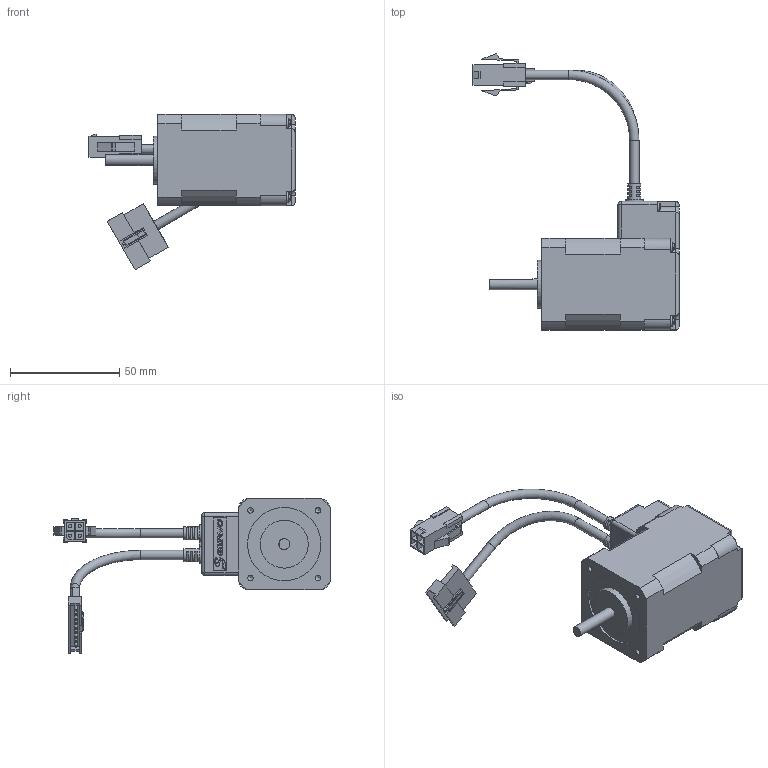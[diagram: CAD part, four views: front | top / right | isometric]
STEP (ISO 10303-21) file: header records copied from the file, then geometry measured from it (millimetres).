
FILE_DESCRIPTION(/* description */ (''),/* implementation_level */ '2;1');
FILE_NAME(/* name */ '\\EMN0D5F01\rp_inventor\RP Mechanical Design\Wiley\Updated Models\eCLM-S173F.stp',/* time_stamp */ '2016-10-27T15:40:09-07:00',/* author */ ('JDB'),/* organization */ ('Parker Hannifin Corp'),/* preprocessor_version */ 'ST-DEVELOPER v15.2',/* originating_system */ 'Autodesk Inventor 2014',/* authorisation */ '');
FILE_SCHEMA (('CONFIG_CONTROL_DESIGN'));
Products named in the file (1): eCLM-S173F_sw
Bounding box: 94.5 x 126.61 x 71.22 mm (x, y, z)
Volume: 102402 mm3; surface area: 32297.2 mm2
Topology: 3 solids, 3 shells, 3796 faces, 11089 edges, 7361 vertices
Faces by surface type: plane 3573, cylinder 123, bspline 44, cone 40, sphere 8, torus 8
Full cylindrical faces by diameter (mm): 1 x9, 1.5 x4, 1.6 x4, 2.1 x4, 2.3 x2, 2.5 x4, 4 x5, 4.3 x4, 5 x2, 6 x4, 8 x2, 9.2 x1, 17.5 x1, 22 x1, 33.6 x1
Entity records: 123165 total; most frequent: CARTESIAN_POINT 23049, ORIENTED_EDGE 21960, DIRECTION 18809, EDGE_CURVE 10978, LINE 10377, VECTOR 10377, VERTEX_POINT 7324, AXIS2_PLACEMENT_3D 4216
